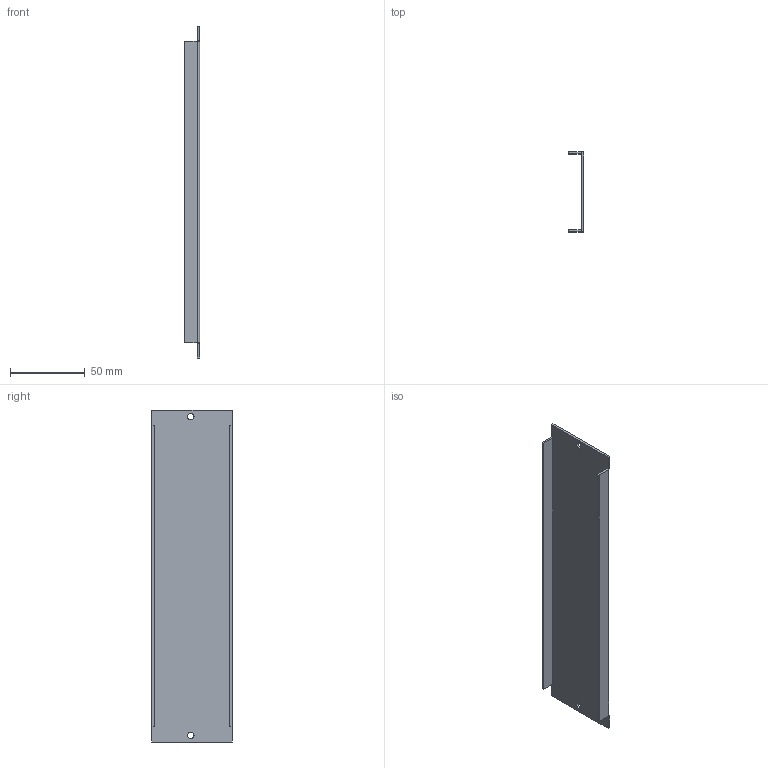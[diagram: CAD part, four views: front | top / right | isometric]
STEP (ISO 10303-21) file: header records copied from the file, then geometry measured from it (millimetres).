
FILE_DESCRIPTION(('CATIA V5 STEP Exchange'),'2;1');
FILE_NAME('C:\Users\Mike\Desktop\blank panels\1MU BLANK PANEL.stp','2018-03-03T21:32:51+00:00',('none'),('none'),'CATIA Version 5 Release 20 GA (IN-10)','CATIA V5 STEP AP214','none');
FILE_SCHEMA(('AUTOMOTIVE_DESIGN { 1 0 10303 214 1 1 1 1 }'));
Length unit declared in the file: millimetre
Products named in the file (1): 1MU BLANK PANEL
Bounding box: 10.16 x 53.72 x 222.25 mm (x, y, z)
Volume: 24020.6 mm3; surface area: 31460.5 mm2
Topology: 1 solids, 1 shells, 30 faces, 84 edges, 56 vertices
Faces by surface type: plane 20, cylinder 6, torus 4
Entity records: 1020 total; most frequent: CARTESIAN_POINT 253, ORIENTED_EDGE 168, DIRECTION 120, EDGE_CURVE 84, VECTOR 60, LINE 60, VERTEX_POINT 56, AXIS2_PLACEMENT_3D 36
